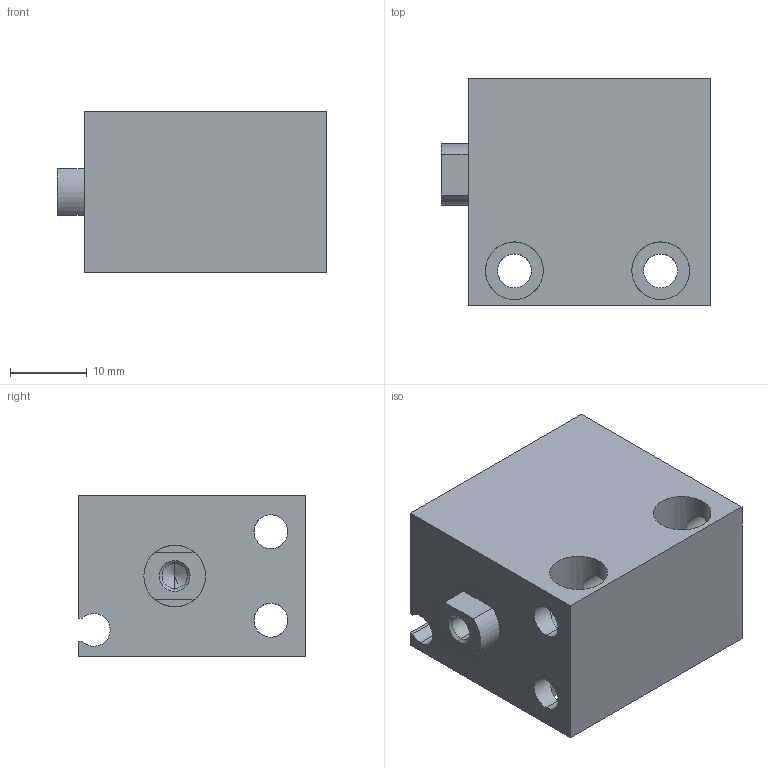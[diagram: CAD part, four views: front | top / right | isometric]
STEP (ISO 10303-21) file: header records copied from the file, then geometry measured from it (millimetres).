
FILE_DESCRIPTION (( 'STEP AP203' ), '1' );
FILE_NAME ('CLJB16-15.STEP', '2020-07-30T19:23:11', ( '' ), ( '' ), 'SwSTEP 2.0', 'SolidWorks 2019', '' );
FILE_SCHEMA (( 'CONFIG_CONTROL_DESIGN' ));
Length unit declared in the file: millimetre
Products named in the file (1): CLJB16-15
Bounding box: 35 x 29.5 x 21 mm (x, y, z)
Volume: 14872.1 mm3; surface area: 8348.5 mm2
Topology: 2 solids, 2 shells, 75 faces, 188 edges, 113 vertices
Faces by surface type: cylinder 41, plane 22, cone 12
Entity records: 3119 total; most frequent: CARTESIAN_POINT 1223, DIRECTION 394, ORIENTED_EDGE 364, EDGE_CURVE 182, AXIS2_PLACEMENT_3D 152, VERTEX_POINT 113, EDGE_LOOP 93, VECTOR 90
